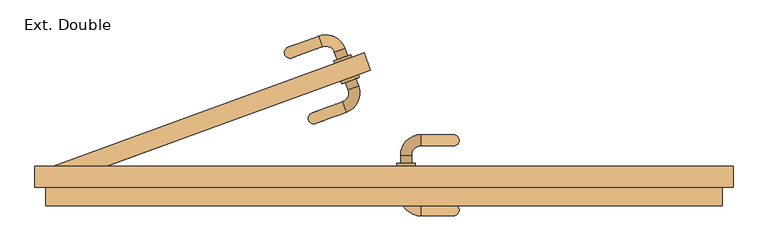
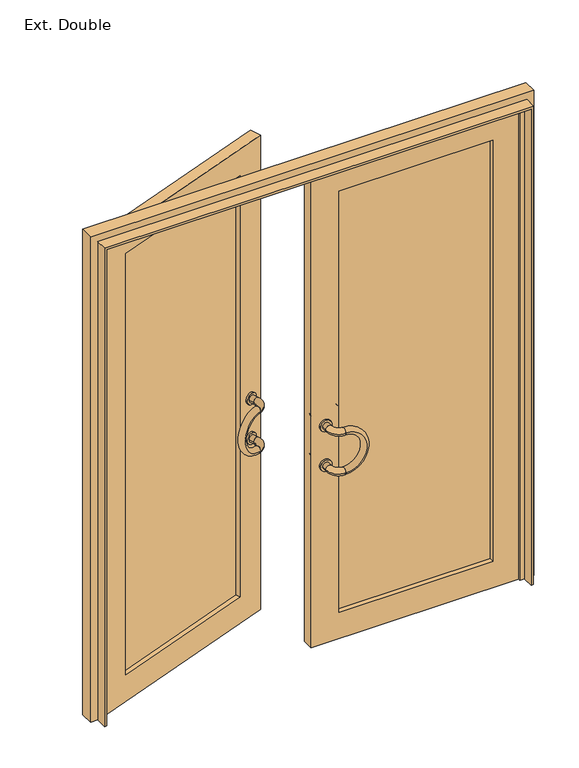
"""IFC4 building model written with IfcOpenShell, lengths in millimetres: door geometry, Ext. Double : Vitrée - 1.80 m x 2.15 m."""

from ifc_helpers import new_model, si_unit, point, frame, origin, place, context, project, spatial, polyline, circle_curve, ellipse_curve, trimmed, outline, extrude, faceted_brep, source, transform, mapped, element, save
from ifc_brep_helpers import plane_surface, cylinder_surface, revolved_surface, advanced_brep


def ext_double_bc6d21ab(model_context):
    return source(origin(), model_context, "Body", "SolidModel", [
        advanced_brep(
        [(35.0, 188.0, 990.0), (65.0, 188.0, 990.0), (90.0, 243.0, 990.0), (90.0, 213.0, 990.0)],
        [
            (0, 1, circle_curve(frame((50.0, 188.0, 990.0), z_axis=(0.0, -1.0, 0.0), x_axis=(1.0, 0.0, 0.0)), 15.0)),
            (1, 0, circle_curve(frame((50.0, 188.0, 990.0), z_axis=(0.0, -1.0, 0.0), x_axis=(1.0, 0.0, 0.0)), 15.0)),
            (2, 3, circle_curve(frame((90.0, 228.0, 990.0), z_axis=(1.0, 0.0, 0.0), x_axis=(0.0, -1.0, 0.0)), 15.0)),
            (3, 2, circle_curve(frame((90.0, 228.0, 990.0), z_axis=(1.0, 0.0, 0.0), x_axis=(0.0, -1.0, 0.0)), 15.0)),
            (2, 0, circle_curve(frame((90.0, 188.0, 990.0), z_axis=(0.0, 0.0, 1.0), x_axis=(-1.0, 0.0, 0.0)), 55.0)),
            (1, 3, circle_curve(frame((90.0, 188.0, 990.0), z_axis=(0.0, 0.0, -1.0), x_axis=(-1.0, 0.0, 0.0)), 25.0)),
        ],
        [
            plane_surface(frame((90.0, 188.0, 990.0), z_axis=(0.0, -1.0, 0.0), x_axis=(-1.0, 0.0, 0.0))),
            plane_surface(frame((90.0, 188.0, 990.0), z_axis=(1.0, 0.0, 0.0), x_axis=(0.0, 1.0, 0.0))),
            revolved_surface(trimmed(ellipse_curve(frame((50.0, 188.0, 990.0), z_axis=(0.0, 1.0, 0.0), x_axis=(1.0, 0.0, 0.0)), 15.0, 15.0), [point((35.0, 188.0, 990.0))], [point((65.0, 188.0, 990.0))], True, "CARTESIAN"), (90.0, 188.0, 990.0), (0.0, 0.0, 1.0)),
            revolved_surface(trimmed(ellipse_curve(frame((50.0, 188.0, 990.0), z_axis=(0.0, 1.0, 0.0), x_axis=(1.0, 0.0, 0.0)), 15.0, 15.0), [point((65.0, 188.0, 990.0))], [point((35.0, 188.0, 990.0))], True, "CARTESIAN"), (90.0, 188.0, 990.0), (0.0, 0.0, 1.0)),
        ],
        [
            (0, [[1, 2]]),
            (1, [[3, 4]]),
            (2, [[-3, 5, -2, 6]]),
            (3, [[-4, -6, -1, -5]]),
        ],
    ),
        advanced_brep(
        [(35.0, 188.0, 810.0), (65.0, 188.0, 810.0), (90.0, 243.0, 810.0), (90.0, 213.0, 810.0)],
        [
            (0, 1, circle_curve(frame((50.0, 188.0, 810.0), z_axis=(0.0, -1.0, 0.0), x_axis=(1.0, 0.0, 0.0)), 15.0)),
            (1, 0, circle_curve(frame((50.0, 188.0, 810.0), z_axis=(0.0, -1.0, 0.0), x_axis=(1.0, 0.0, 0.0)), 15.0)),
            (2, 3, circle_curve(frame((90.0, 228.0, 810.0), z_axis=(1.0, 0.0, 0.0), x_axis=(0.0, -1.0, 0.0)), 15.0)),
            (3, 2, circle_curve(frame((90.0, 228.0, 810.0), z_axis=(1.0, 0.0, 0.0), x_axis=(0.0, -1.0, 0.0)), 15.0)),
            (2, 0, circle_curve(frame((90.0, 188.0, 810.0), z_axis=(0.0, 0.0, 1.0), x_axis=(-1.0, 0.0, 0.0)), 55.0)),
            (1, 3, circle_curve(frame((90.0, 188.0, 810.0), z_axis=(0.0, 0.0, -1.0), x_axis=(-1.0, 0.0, 0.0)), 25.0)),
        ],
        [
            plane_surface(frame((90.0, 188.0, 990.0), z_axis=(0.0, -1.0, 0.0), x_axis=(-1.0, 0.0, 0.0))),
            plane_surface(frame((90.0, 188.0, 990.0), z_axis=(1.0, 0.0, 0.0), x_axis=(0.0, 1.0, 0.0))),
            revolved_surface(trimmed(ellipse_curve(frame((50.0, 188.0, 810.0), z_axis=(0.0, 1.0, 0.0), x_axis=(1.0, 0.0, 0.0)), 15.0, 15.0), [point((35.0, 188.0, 810.0))], [point((65.0, 188.0, 810.0))], True, "CARTESIAN"), (90.0, 188.0, 990.0), (0.0, 0.0, 1.0)),
            revolved_surface(trimmed(ellipse_curve(frame((50.0, 188.0, 810.0), z_axis=(0.0, 1.0, 0.0), x_axis=(1.0, 0.0, 0.0)), 15.0, 15.0), [point((65.0, 188.0, 810.0))], [point((35.0, 188.0, 810.0))], True, "CARTESIAN"), (90.0, 188.0, 990.0), (0.0, 0.0, 1.0)),
        ],
        [
            (0, [[1, 2]]),
            (1, [[3, 4]]),
            (2, [[-3, 5, -2, 6]]),
            (3, [[-4, -6, -1, -5]]),
        ],
    ),
        advanced_brep(
        [(90.0, 213.0, 990.0), (90.0, 243.0, 990.0), (90.0, 213.0, 810.0), (90.0, 243.0, 810.0)],
        [
            (0, 1, circle_curve(frame((90.0, 228.0, 990.0), z_axis=(-1.0, 0.0, 0.0), x_axis=(0.0, 1.0, 0.0)), 15.0)),
            (1, 0, circle_curve(frame((90.0, 228.0, 990.0), z_axis=(-1.0, 0.0, 0.0), x_axis=(0.0, 1.0, 0.0)), 15.0)),
            (2, 3, circle_curve(frame((90.0, 228.0, 810.0), z_axis=(-1.0, 0.0, 0.0), x_axis=(0.0, 1.0, 0.0)), 15.0)),
            (3, 2, circle_curve(frame((90.0, 228.0, 810.0), z_axis=(-1.0, 0.0, 0.0), x_axis=(0.0, 1.0, 0.0)), 15.0)),
            (2, 0, circle_curve(frame((90.0, 213.0, 900.0), z_axis=(0.0, -1.0, 0.0), x_axis=(0.0, 0.0, 1.0)), 90.0)),
            (1, 3, circle_curve(frame((90.0, 243.0, 900.0), z_axis=(0.0, 1.0, 0.0), x_axis=(0.0, 0.0, 1.0)), 90.0)),
        ],
        [
            plane_surface(frame((90.0, 243.0, 900.0), z_axis=(-1.0, 0.0, 0.0), x_axis=(0.0, 0.0, 1.0))),
            plane_surface(frame((90.0, 243.0, 900.0), z_axis=(-1.0, 0.0, 0.0), x_axis=(0.0, 0.0, -1.0))),
            revolved_surface(trimmed(ellipse_curve(frame((90.0, 228.0, 990.0), z_axis=(1.0, 0.0, 0.0), x_axis=(0.0, 1.0, 0.0)), 15.0, 15.0), [point((90.0, 213.0, 990.0))], [point((90.0, 243.0, 990.0))], True, "CARTESIAN"), (90.0, 243.0, 900.0), (0.0, -1.0, 0.0)),
            revolved_surface(trimmed(ellipse_curve(frame((90.0, 228.0, 990.0), z_axis=(1.0, 0.0, 0.0), x_axis=(0.0, 1.0, 0.0)), 15.0, 15.0), [point((90.0, 243.0, 990.0))], [point((90.0, 213.0, 990.0))], True, "CARTESIAN"), (90.0, 243.0, 900.0), (0.0, -1.0, 0.0)),
        ],
        [
            (0, [[1, 2]]),
            (1, [[3, 4]]),
            (2, [[-3, 5, -2, 6]]),
            (3, [[-4, -6, -1, -5]]),
        ],
    ),
        advanced_brep(
        [(65.0, 78.0, 990.0), (35.0, 78.0, 990.0), (90.0, 53.0, 990.0), (90.0, 23.0, 990.0)],
        [
            (0, 1, circle_curve(frame((50.0, 78.0, 990.0), z_axis=(0.0, 1.0, 0.0), x_axis=(-1.0, 0.0, 0.0)), 15.0)),
            (1, 0, circle_curve(frame((50.0, 78.0, 990.0), z_axis=(0.0, 1.0, 0.0), x_axis=(-1.0, 0.0, 0.0)), 15.0)),
            (2, 3, circle_curve(frame((90.0, 38.0, 990.0), z_axis=(1.0, 0.0, 0.0), x_axis=(0.0, -1.0, 0.0)), 15.0)),
            (3, 2, circle_curve(frame((90.0, 38.0, 990.0), z_axis=(1.0, 0.0, 0.0), x_axis=(0.0, -1.0, 0.0)), 15.0)),
            (2, 0, circle_curve(frame((90.0, 78.0, 990.0), z_axis=(0.0, 0.0, -1.0), x_axis=(-1.0, 0.0, 0.0)), 25.0)),
            (1, 3, circle_curve(frame((90.0, 78.0, 990.0), z_axis=(0.0, 0.0, 1.0), x_axis=(-1.0, 0.0, 0.0)), 55.0)),
        ],
        [
            plane_surface(frame((90.0, 78.0, 990.0), z_axis=(0.0, 1.0, 0.0), x_axis=(-1.0, 0.0, 0.0))),
            plane_surface(frame((90.0, 78.0, 990.0), z_axis=(1.0, 0.0, 0.0), x_axis=(0.0, -1.0, 0.0))),
            revolved_surface(trimmed(ellipse_curve(frame((50.0, 78.0, 990.0), z_axis=(0.0, -1.0, 0.0), x_axis=(-1.0, 0.0, 0.0)), 15.0, 15.0), [point((65.0, 78.0, 990.0))], [point((35.0, 78.0, 990.0))], True, "CARTESIAN"), (90.0, 78.0, 990.0), (0.0, 0.0, -1.0)),
            revolved_surface(trimmed(ellipse_curve(frame((50.0, 78.0, 990.0), z_axis=(0.0, -1.0, 0.0), x_axis=(-1.0, 0.0, 0.0)), 15.0, 15.0), [point((35.0, 78.0, 990.0))], [point((65.0, 78.0, 990.0))], True, "CARTESIAN"), (90.0, 78.0, 990.0), (0.0, 0.0, -1.0)),
        ],
        [
            (0, [[1, 2]]),
            (1, [[3, 4]]),
            (2, [[-3, 5, -2, 6]]),
            (3, [[-4, -6, -1, -5]]),
        ],
    ),
        advanced_brep(
        [(65.0, 78.0, 810.0), (35.0, 78.0, 810.0), (90.0, 53.0, 810.0), (90.0, 23.0, 810.0)],
        [
            (0, 1, circle_curve(frame((50.0, 78.0, 810.0), z_axis=(0.0, 1.0, 0.0), x_axis=(-1.0, 0.0, 0.0)), 15.0)),
            (1, 0, circle_curve(frame((50.0, 78.0, 810.0), z_axis=(0.0, 1.0, 0.0), x_axis=(-1.0, 0.0, 0.0)), 15.0)),
            (2, 3, circle_curve(frame((90.0, 38.0, 810.0), z_axis=(1.0, 0.0, 0.0), x_axis=(0.0, -1.0, 0.0)), 15.0)),
            (3, 2, circle_curve(frame((90.0, 38.0, 810.0), z_axis=(1.0, 0.0, 0.0), x_axis=(0.0, -1.0, 0.0)), 15.0)),
            (2, 0, circle_curve(frame((90.0, 78.0, 810.0), z_axis=(0.0, 0.0, -1.0), x_axis=(-1.0, 0.0, 0.0)), 25.0)),
            (1, 3, circle_curve(frame((90.0, 78.0, 810.0), z_axis=(0.0, 0.0, 1.0), x_axis=(-1.0, 0.0, 0.0)), 55.0)),
        ],
        [
            plane_surface(frame((90.0, 78.0, 990.0), z_axis=(0.0, 1.0, 0.0), x_axis=(-1.0, 0.0, 0.0))),
            plane_surface(frame((90.0, 78.0, 990.0), z_axis=(1.0, 0.0, 0.0), x_axis=(0.0, -1.0, 0.0))),
            revolved_surface(trimmed(ellipse_curve(frame((50.0, 78.0, 810.0), z_axis=(0.0, -1.0, 0.0), x_axis=(-1.0, 0.0, 0.0)), 15.0, 15.0), [point((65.0, 78.0, 810.0))], [point((35.0, 78.0, 810.0))], True, "CARTESIAN"), (90.0, 78.0, 990.0), (0.0, 0.0, -1.0)),
            revolved_surface(trimmed(ellipse_curve(frame((50.0, 78.0, 810.0), z_axis=(0.0, -1.0, 0.0), x_axis=(-1.0, 0.0, 0.0)), 15.0, 15.0), [point((35.0, 78.0, 810.0))], [point((65.0, 78.0, 810.0))], True, "CARTESIAN"), (90.0, 78.0, 990.0), (0.0, 0.0, -1.0)),
        ],
        [
            (0, [[1, 2]]),
            (1, [[3, 4]]),
            (2, [[-3, 5, -2, 6]]),
            (3, [[-4, -6, -1, -5]]),
        ],
    ),
        advanced_brep(
        [(90.0, 23.0, 990.0), (90.0, 53.0, 990.0), (90.0, 23.0, 810.0), (90.0, 53.0, 810.0)],
        [
            (0, 1, circle_curve(frame((90.0, 38.0, 990.0), z_axis=(-1.0, 0.0, 0.0), x_axis=(0.0, 1.0, 0.0)), 15.0)),
            (1, 0, circle_curve(frame((90.0, 38.0, 990.0), z_axis=(-1.0, 0.0, 0.0), x_axis=(0.0, 1.0, 0.0)), 15.0)),
            (2, 3, circle_curve(frame((90.0, 38.0, 810.0), z_axis=(-1.0, 0.0, 0.0), x_axis=(0.0, 1.0, 0.0)), 15.0)),
            (3, 2, circle_curve(frame((90.0, 38.0, 810.0), z_axis=(-1.0, 0.0, 0.0), x_axis=(0.0, 1.0, 0.0)), 15.0)),
            (2, 0, circle_curve(frame((90.0, 23.0, 900.0), z_axis=(0.0, -1.0, 0.0), x_axis=(0.0, 0.0, 1.0)), 90.0)),
            (1, 3, circle_curve(frame((90.0, 53.0, 900.0), z_axis=(0.0, 1.0, 0.0), x_axis=(0.0, 0.0, 1.0)), 90.0)),
        ],
        [
            plane_surface(frame((90.0, 38.0, 900.0), z_axis=(-1.0, 0.0, 0.0), x_axis=(0.0, 0.0, 1.0))),
            plane_surface(frame((90.0, 38.0, 900.0), z_axis=(-1.0, 0.0, 0.0), x_axis=(0.0, 0.0, -1.0))),
            revolved_surface(trimmed(ellipse_curve(frame((90.0, 38.0, 990.0), z_axis=(1.0, 0.0, 0.0), x_axis=(0.0, 1.0, 0.0)), 15.0, 15.0), [point((90.0, 23.0, 990.0))], [point((90.0, 53.0, 990.0))], True, "CARTESIAN"), (90.0, 38.0, 900.0), (0.0, -1.0, 0.0)),
            revolved_surface(trimmed(ellipse_curve(frame((90.0, 38.0, 990.0), z_axis=(1.0, 0.0, 0.0), x_axis=(0.0, 1.0, 0.0)), 15.0, 15.0), [point((90.0, 53.0, 990.0))], [point((90.0, 23.0, 990.0))], True, "CARTESIAN"), (90.0, 38.0, 900.0), (0.0, -1.0, 0.0)),
        ],
        [
            (0, [[1, 2]]),
            (1, [[3, 4]]),
            (2, [[-3, 5, -2, 6]]),
            (3, [[-4, -6, -1, -5]]),
        ],
    ),
        advanced_brep(
        [(25.0, 166.0, 990.0), (75.0, 166.0, 990.0), (65.0, 166.0, 990.0), (35.0, 166.0, 990.0), (25.0, 158.0, 990.0), (75.0, 158.0, 990.0), (35.0, 188.0, 990.0), (65.0, 188.0, 990.0)],
        [
            (0, 1, circle_curve(frame((50.0, 166.0, 990.0), z_axis=(0.0, 1.0, 0.0), x_axis=(1.0, 0.0, 0.0)), 25.0)),
            (1, 0, circle_curve(frame((50.0, 166.0, 990.0), z_axis=(0.0, 1.0, 0.0), x_axis=(1.0, 0.0, 0.0)), 25.0)),
            (2, 3, circle_curve(frame((50.0, 166.0, 990.0), z_axis=(0.0, -1.0, 0.0), x_axis=(1.0, 0.0, 0.0)), 15.0)),
            (3, 2, circle_curve(frame((50.0, 166.0, 990.0), z_axis=(0.0, -1.0, 0.0), x_axis=(1.0, 0.0, 0.0)), 15.0)),
            (4, 5, circle_curve(frame((50.0, 158.0, 990.0), z_axis=(0.0, -1.0, 0.0), x_axis=(1.0, 0.0, 0.0)), 25.0)),
            (5, 4, circle_curve(frame((50.0, 158.0, 990.0), z_axis=(0.0, -1.0, 0.0), x_axis=(1.0, 0.0, 0.0)), 25.0)),
            (1, 5),
            (4, 0),
            (6, 7, circle_curve(frame((50.0, 188.0, 990.0), z_axis=(0.0, 1.0, 0.0), x_axis=(1.0, 0.0, 0.0)), 15.0)),
            (7, 6, circle_curve(frame((50.0, 188.0, 990.0), z_axis=(0.0, 1.0, 0.0), x_axis=(1.0, 0.0, 0.0)), 15.0)),
            (7, 2),
            (3, 6),
        ],
        [
            plane_surface(frame((75.0, 166.0, 990.0), z_axis=(0.0, 1.0, 0.0), x_axis=(0.0, 0.0, 1.0))),
            plane_surface(frame((75.0, 158.0, 990.0), z_axis=(0.0, -1.0, 0.0), x_axis=(0.0, 0.0, -1.0))),
            cylinder_surface(frame((50.0, 158.0, 990.0), z_axis=(0.0, 1.0, 0.0), x_axis=(1.0, 0.0, 0.0)), 25.0),
            plane_surface(frame((65.0, 188.0, 990.0), z_axis=(0.0, 1.0, 0.0), x_axis=(0.0, 0.0, 1.0))),
            cylinder_surface(frame((50.0, 158.0, 990.0), z_axis=(0.0, 1.0, 0.0), x_axis=(1.0, 0.0, 0.0)), 15.0),
        ],
        [
            (0, [[1, 2], [3, 4]]),
            (1, [[5, 6]]),
            (2, [[7, -5, 8, -2]]),
            (2, [[-8, -6, -7, -1]]),
            (3, [[9, 10]]),
            (4, [[11, -4, 12, -10]]),
            (4, [[-12, -3, -11, -9]]),
        ],
    ),
        advanced_brep(
        [(25.0, 166.0, 810.0), (75.0, 166.0, 810.0), (65.0, 166.0, 810.0), (35.0, 166.0, 810.0), (25.0, 158.0, 810.0), (75.0, 158.0, 810.0), (35.0, 188.0, 810.0), (65.0, 188.0, 810.0)],
        [
            (0, 1, circle_curve(frame((50.0, 166.0, 810.0), z_axis=(0.0, 1.0, 0.0), x_axis=(1.0, 0.0, 0.0)), 25.0)),
            (1, 0, circle_curve(frame((50.0, 166.0, 810.0), z_axis=(0.0, 1.0, 0.0), x_axis=(1.0, 0.0, 0.0)), 25.0)),
            (2, 3, circle_curve(frame((50.0, 166.0, 810.0), z_axis=(0.0, -1.0, 0.0), x_axis=(1.0, 0.0, 0.0)), 15.0)),
            (3, 2, circle_curve(frame((50.0, 166.0, 810.0), z_axis=(0.0, -1.0, 0.0), x_axis=(1.0, 0.0, 0.0)), 15.0)),
            (4, 5, circle_curve(frame((50.0, 158.0, 810.0), z_axis=(0.0, -1.0, 0.0), x_axis=(1.0, 0.0, 0.0)), 25.0)),
            (5, 4, circle_curve(frame((50.0, 158.0, 810.0), z_axis=(0.0, -1.0, 0.0), x_axis=(1.0, 0.0, 0.0)), 25.0)),
            (1, 5),
            (4, 0),
            (6, 7, circle_curve(frame((50.0, 188.0, 810.0), z_axis=(0.0, 1.0, 0.0), x_axis=(1.0, 0.0, 0.0)), 15.0)),
            (7, 6, circle_curve(frame((50.0, 188.0, 810.0), z_axis=(0.0, 1.0, 0.0), x_axis=(1.0, 0.0, 0.0)), 15.0)),
            (7, 2),
            (3, 6),
        ],
        [
            plane_surface(frame((75.0, 166.0, 990.0), z_axis=(0.0, 1.0, 0.0), x_axis=(0.0, 0.0, 1.0))),
            plane_surface(frame((75.0, 158.0, 990.0), z_axis=(0.0, -1.0, 0.0), x_axis=(0.0, 0.0, -1.0))),
            cylinder_surface(frame((50.0, 158.0, 810.0), z_axis=(0.0, 1.0, 0.0), x_axis=(1.0, 0.0, 0.0)), 25.0),
            plane_surface(frame((65.0, 188.0, 990.0), z_axis=(0.0, 1.0, 0.0), x_axis=(0.0, 0.0, 1.0))),
            cylinder_surface(frame((50.0, 158.0, 810.0), z_axis=(0.0, 1.0, 0.0), x_axis=(1.0, 0.0, 0.0)), 15.0),
        ],
        [
            (0, [[1, 2], [3, 4]]),
            (1, [[5, 6]]),
            (2, [[7, -5, 8, -2]]),
            (2, [[-8, -6, -7, -1]]),
            (3, [[9, 10]]),
            (4, [[11, -4, 12, -10]]),
            (4, [[-12, -3, -11, -9]]),
        ],
    ),
        advanced_brep(
        [(25.0, 108.0, 810.0), (75.0, 108.0, 810.0), (25.0, 100.0, 810.0), (75.0, 100.0, 810.0), (35.0, 100.0, 810.0), (65.0, 100.0, 810.0), (35.0, 78.0, 810.0), (65.0, 78.0, 810.0)],
        [
            (0, 1, circle_curve(frame((50.0, 108.0, 810.0), z_axis=(0.0, 1.0, 0.0), x_axis=(1.0, 0.0, 0.0)), 25.0)),
            (1, 0, circle_curve(frame((50.0, 108.0, 810.0), z_axis=(0.0, 1.0, 0.0), x_axis=(1.0, 0.0, 0.0)), 25.0)),
            (2, 3, circle_curve(frame((50.0, 100.0, 810.0), z_axis=(0.0, -1.0, 0.0), x_axis=(1.0, 0.0, 0.0)), 25.0)),
            (3, 2, circle_curve(frame((50.0, 100.0, 810.0), z_axis=(0.0, -1.0, 0.0), x_axis=(1.0, 0.0, 0.0)), 25.0)),
            (4, 5, circle_curve(frame((50.0, 100.0, 810.0), z_axis=(0.0, 1.0, 0.0), x_axis=(1.0, 0.0, 0.0)), 15.0)),
            (5, 4, circle_curve(frame((50.0, 100.0, 810.0), z_axis=(0.0, 1.0, 0.0), x_axis=(1.0, 0.0, 0.0)), 15.0)),
            (1, 3),
            (2, 0),
            (6, 7, circle_curve(frame((50.0, 78.0, 810.0), z_axis=(0.0, -1.0, 0.0), x_axis=(1.0, 0.0, 0.0)), 15.0)),
            (7, 6, circle_curve(frame((50.0, 78.0, 810.0), z_axis=(0.0, -1.0, 0.0), x_axis=(1.0, 0.0, 0.0)), 15.0)),
            (6, 4),
            (5, 7),
        ],
        [
            plane_surface(frame((75.0, 108.0, 990.0), z_axis=(0.0, 1.0, 0.0), x_axis=(0.0, 0.0, 1.0))),
            plane_surface(frame((75.0, 100.0, 990.0), z_axis=(0.0, -1.0, 0.0), x_axis=(0.0, 0.0, -1.0))),
            cylinder_surface(frame((50.0, 108.0, 810.0), z_axis=(0.0, 1.0, 0.0), x_axis=(1.0, 0.0, 0.0)), 25.0),
            plane_surface(frame((65.0, 78.0, 990.0), z_axis=(0.0, -1.0, 0.0), x_axis=(0.0, 0.0, -1.0))),
            cylinder_surface(frame((50.0, 108.0, 810.0), z_axis=(0.0, 1.0, 0.0), x_axis=(1.0, 0.0, 0.0)), 15.0),
        ],
        [
            (0, [[1, 2]]),
            (1, [[3, 4], [5, 6]]),
            (2, [[7, -3, 8, -2]]),
            (2, [[-8, -4, -7, -1]]),
            (3, [[9, 10]]),
            (4, [[11, -6, 12, -9]]),
            (4, [[-12, -5, -11, -10]]),
        ],
    ),
        advanced_brep(
        [(25.0, 108.0, 990.0), (75.0, 108.0, 990.0), (25.0, 100.0, 990.0), (75.0, 100.0, 990.0), (35.0, 100.0, 990.0), (65.0, 100.0, 990.0), (35.0, 78.0, 990.0), (65.0, 78.0, 990.0)],
        [
            (0, 1, circle_curve(frame((50.0, 108.0, 990.0), z_axis=(0.0, 1.0, 0.0), x_axis=(1.0, 0.0, 0.0)), 25.0)),
            (1, 0, circle_curve(frame((50.0, 108.0, 990.0), z_axis=(0.0, 1.0, 0.0), x_axis=(1.0, 0.0, 0.0)), 25.0)),
            (2, 3, circle_curve(frame((50.0, 100.0, 990.0), z_axis=(0.0, -1.0, 0.0), x_axis=(1.0, 0.0, 0.0)), 25.0)),
            (3, 2, circle_curve(frame((50.0, 100.0, 990.0), z_axis=(0.0, -1.0, 0.0), x_axis=(1.0, 0.0, 0.0)), 25.0)),
            (4, 5, circle_curve(frame((50.0, 100.0, 990.0), z_axis=(0.0, 1.0, 0.0), x_axis=(1.0, 0.0, 0.0)), 15.0)),
            (5, 4, circle_curve(frame((50.0, 100.0, 990.0), z_axis=(0.0, 1.0, 0.0), x_axis=(1.0, 0.0, 0.0)), 15.0)),
            (1, 3),
            (2, 0),
            (6, 7, circle_curve(frame((50.0, 78.0, 990.0), z_axis=(0.0, -1.0, 0.0), x_axis=(1.0, 0.0, 0.0)), 15.0)),
            (7, 6, circle_curve(frame((50.0, 78.0, 990.0), z_axis=(0.0, -1.0, 0.0), x_axis=(1.0, 0.0, 0.0)), 15.0)),
            (6, 4),
            (5, 7),
        ],
        [
            plane_surface(frame((75.0, 108.0, 990.0), z_axis=(0.0, 1.0, 0.0), x_axis=(0.0, 0.0, 1.0))),
            plane_surface(frame((75.0, 100.0, 990.0), z_axis=(0.0, -1.0, 0.0), x_axis=(0.0, 0.0, -1.0))),
            cylinder_surface(frame((50.0, 100.0, 990.0), z_axis=(0.0, 1.0, 0.0), x_axis=(1.0, 0.0, 0.0)), 25.0),
            plane_surface(frame((65.0, 78.0, 990.0), z_axis=(0.0, -1.0, 0.0), x_axis=(0.0, 0.0, -1.0))),
            cylinder_surface(frame((50.0, 78.0, 990.0), z_axis=(0.0, 1.0, 0.0), x_axis=(1.0, 0.0, 0.0)), 15.0),
        ],
        [
            (0, [[1, 2]]),
            (1, [[3, 4], [5, 6]]),
            (2, [[7, -3, 8, -2]]),
            (2, [[-8, -4, -7, -1]]),
            (3, [[9, 10]]),
            (4, [[11, -6, 12, -9]]),
            (4, [[-12, -5, -11, -10]]),
        ],
    ),
        extrude(outline(polyline([(110.0, 128.0), (110.0, 138.0), (770.0, 138.0), (770.0, 128.0), (110.0, 128.0)])), frame((0.0, 0.0, 120.0), z_axis=(0.0, 0.0, 1.0), x_axis=(1.0, 0.0, 0.0)), (0.0, 0.0, 1.0), 1910.0),
        extrude(outline(polyline([(2150.0, -10.0), (0.0, -10.0), (0.0, 890.0), (2150.0, 890.0), (2150.0, -10.0)]), holes=[polyline([(2030.0, 770.0), (120.0, 770.0), (120.0, 110.0), (2030.0, 110.0), (2030.0, 770.0)])]), frame((0.0, 108.0, 0.0), z_axis=(0.0, 1.0, 0.0), x_axis=(0.0, 0.0, 1.0)), (0.0, 0.0, 1.0), 50.0),
        advanced_brep(
        [(-116.8234135, 478.6180012, 990.0), (-145.0141922, 468.3573969, 990.0), (-187.3176156, 511.4899874, 990.0), (-177.0570113, 483.2992088, 990.0)],
        [
            (0, 1, circle_curve(frame((-130.9188028, 473.487699, 990.0), z_axis=(0.34202014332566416, -0.9396926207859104, 0.0), x_axis=(-0.9396926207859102, -0.3420201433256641, 0.0)), 15.0)),
            (1, 0, circle_curve(frame((-130.9188028, 473.487699, 990.0), z_axis=(0.34202014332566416, -0.9396926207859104, 0.0), x_axis=(-0.9396926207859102, -0.3420201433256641, 0.0)), 15.0)),
            (2, 3, circle_curve(frame((-182.1873134, 497.3945981, 990.0), z_axis=(-0.9396926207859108, -0.3420201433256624, 0.0), x_axis=(0.34202014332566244, -0.939692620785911, 0.0)), 15.0)),
            (3, 2, circle_curve(frame((-182.1873134, 497.3945981, 990.0), z_axis=(-0.9396926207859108, -0.3420201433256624, 0.0), x_axis=(0.34202014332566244, -0.939692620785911, 0.0)), 15.0)),
            (3, 1, circle_curve(frame((-168.5065077, 459.8068933, 990.0), z_axis=(0.0, 0.0, -1.0), x_axis=(0.939692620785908, 0.34202014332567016, 0.0)), 25.0)),
            (0, 2, circle_curve(frame((-168.5065077, 459.8068933, 990.0), z_axis=(0.0, 0.0, 1.0), x_axis=(0.939692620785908, 0.34202014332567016, 0.0)), 55.0)),
        ],
        [
            plane_surface(frame((-168.5065077, 459.8068933, 990.0), z_axis=(0.34202014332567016, -0.939692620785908, 0.0), x_axis=(0.939692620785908, 0.34202014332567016, 0.0))),
            plane_surface(frame((-168.5065077, 459.8068933, 990.0), z_axis=(-0.9396926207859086, -0.3420201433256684, 0.0), x_axis=(-0.3420201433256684, 0.9396926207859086, 0.0))),
            revolved_surface(trimmed(ellipse_curve(frame((-130.9188028, 473.487699, 990.0), z_axis=(0.34202014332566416, -0.9396926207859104, 0.0), x_axis=(-0.9396926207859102, -0.3420201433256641, 0.0)), 15.0, 15.0), [point((-116.8234135, 478.6180012, 990.0))], [point((-145.0141922, 468.3573969, 990.0))], True, "CARTESIAN"), (-168.5065077, 459.8068933, 990.0), (0.0, 0.0, 1.0000000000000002)),
            revolved_surface(trimmed(ellipse_curve(frame((-130.9188028, 473.487699, 990.0), z_axis=(0.34202014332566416, -0.9396926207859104, 0.0), x_axis=(-0.9396926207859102, -0.3420201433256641, 0.0)), 15.0, 15.0), [point((-145.0141922, 468.3573969, 990.0))], [point((-116.8234135, 478.6180012, 990.0))], True, "CARTESIAN"), (-168.5065077, 459.8068933, 990.0), (0.0, 0.0, 1.0000000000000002)),
        ],
        [
            (0, [[1, 2]]),
            (1, [[3, 4]]),
            (2, [[5, -1, 6, -4]]),
            (3, [[-6, -2, -5, -3]]),
        ],
    ),
        advanced_brep(
        [(-116.8234135, 478.6180012, 810.0), (-145.0141922, 468.3573969, 810.0), (-187.3176156, 511.4899874, 810.0), (-177.0570113, 483.2992088, 810.0)],
        [
            (0, 1, circle_curve(frame((-130.9188028, 473.487699, 810.0), z_axis=(0.34202014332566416, -0.9396926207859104, 0.0), x_axis=(-0.9396926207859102, -0.3420201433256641, 0.0)), 15.0)),
            (1, 0, circle_curve(frame((-130.9188028, 473.487699, 810.0), z_axis=(0.34202014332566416, -0.9396926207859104, 0.0), x_axis=(-0.9396926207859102, -0.3420201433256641, 0.0)), 15.0)),
            (2, 3, circle_curve(frame((-182.1873134, 497.3945981, 810.0), z_axis=(-0.9396926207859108, -0.3420201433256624, 0.0), x_axis=(0.34202014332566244, -0.939692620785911, 0.0)), 15.0)),
            (3, 2, circle_curve(frame((-182.1873134, 497.3945981, 810.0), z_axis=(-0.9396926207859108, -0.3420201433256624, 0.0), x_axis=(0.34202014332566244, -0.939692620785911, 0.0)), 15.0)),
            (3, 1, circle_curve(frame((-168.5065077, 459.8068933, 810.0), z_axis=(0.0, 0.0, -1.0), x_axis=(0.939692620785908, 0.34202014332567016, 0.0)), 25.0)),
            (0, 2, circle_curve(frame((-168.5065077, 459.8068933, 810.0), z_axis=(0.0, 0.0, 1.0), x_axis=(0.939692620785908, 0.34202014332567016, 0.0)), 55.0)),
        ],
        [
            plane_surface(frame((-168.5065077, 459.8068933, 990.0), z_axis=(0.34202014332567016, -0.939692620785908, 0.0), x_axis=(0.939692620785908, 0.34202014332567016, 0.0))),
            plane_surface(frame((-168.5065077, 459.8068933, 990.0), z_axis=(-0.9396926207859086, -0.3420201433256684, 0.0), x_axis=(-0.3420201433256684, 0.9396926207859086, 0.0))),
            revolved_surface(trimmed(ellipse_curve(frame((-130.9188028, 473.487699, 810.0), z_axis=(0.34202014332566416, -0.9396926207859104, 0.0), x_axis=(-0.9396926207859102, -0.3420201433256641, 0.0)), 15.0, 15.0), [point((-116.8234135, 478.6180012, 810.0))], [point((-145.0141922, 468.3573969, 810.0))], True, "CARTESIAN"), (-168.5065077, 459.8068933, 990.0), (0.0, 0.0, 1.0000000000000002)),
            revolved_surface(trimmed(ellipse_curve(frame((-130.9188028, 473.487699, 810.0), z_axis=(0.34202014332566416, -0.9396926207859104, 0.0), x_axis=(-0.9396926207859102, -0.3420201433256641, 0.0)), 15.0, 15.0), [point((-145.0141922, 468.3573969, 810.0))], [point((-116.8234135, 478.6180012, 810.0))], True, "CARTESIAN"), (-168.5065077, 459.8068933, 990.0), (0.0, 0.0, 1.0000000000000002)),
        ],
        [
            (0, [[1, 2]]),
            (1, [[3, 4]]),
            (2, [[5, -1, 6, -4]]),
            (3, [[-6, -2, -5, -3]]),
        ],
    ),
        advanced_brep(
        [(-177.0570113, 483.2992088, 990.0), (-187.3176156, 511.4899874, 990.0), (-177.0570113, 483.2992088, 810.0), (-187.3176156, 511.4899874, 810.0)],
        [
            (0, 1, circle_curve(frame((-182.1873134, 497.3945981, 990.0), z_axis=(0.9396926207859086, 0.34202014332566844, 0.0), x_axis=(-0.3420201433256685, 0.9396926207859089, 0.0)), 15.0)),
            (1, 0, circle_curve(frame((-182.1873134, 497.3945981, 990.0), z_axis=(0.9396926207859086, 0.34202014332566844, 0.0), x_axis=(-0.3420201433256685, 0.9396926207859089, 0.0)), 15.0)),
            (2, 3, circle_curve(frame((-182.1873134, 497.3945981, 810.0), z_axis=(0.9396926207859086, 0.34202014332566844, 0.0), x_axis=(-0.3420201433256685, 0.9396926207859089, 0.0)), 15.0)),
            (3, 2, circle_curve(frame((-182.1873134, 497.3945981, 810.0), z_axis=(0.9396926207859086, 0.34202014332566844, 0.0), x_axis=(-0.3420201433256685, 0.9396926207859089, 0.0)), 15.0)),
            (3, 1, circle_curve(frame((-187.3176156, 511.4899874, 900.0), z_axis=(-0.34202014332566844, 0.9396926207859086, 0.0), x_axis=(0.0, 0.0, 1.0000000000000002)), 90.0)),
            (0, 2, circle_curve(frame((-177.0570113, 483.2992088, 900.0), z_axis=(0.34202014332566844, -0.9396926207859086, 0.0), x_axis=(0.0, 0.0, 1.0000000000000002)), 90.0)),
        ],
        [
            plane_surface(frame((-187.3176156, 511.4899874, 900.0), z_axis=(0.9396926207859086, 0.34202014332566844, 0.0), x_axis=(0.0, 0.0, 1.0))),
            plane_surface(frame((-187.3176156, 511.4899874, 900.0), z_axis=(0.9396926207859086, 0.34202014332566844, 0.0), x_axis=(0.0, 0.0, -1.0))),
            revolved_surface(trimmed(ellipse_curve(frame((-182.1873134, 497.3945981, 990.0), z_axis=(0.9396926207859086, 0.34202014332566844, 0.0), x_axis=(-0.3420201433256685, 0.9396926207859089, 0.0)), 15.0, 15.0), [point((-177.0570113, 483.2992088, 990.0))], [point((-187.3176156, 511.4899874, 990.0))], True, "CARTESIAN"), (-187.3176156, 511.4899874, 900.0), (0.3420201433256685, -0.9396926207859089, 0.0)),
            revolved_surface(trimmed(ellipse_curve(frame((-182.1873134, 497.3945981, 990.0), z_axis=(0.9396926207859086, 0.34202014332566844, 0.0), x_axis=(-0.3420201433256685, 0.9396926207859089, 0.0)), 15.0, 15.0), [point((-187.3176156, 511.4899874, 990.0))], [point((-177.0570113, 483.2992088, 990.0))], True, "CARTESIAN"), (-187.3176156, 511.4899874, 900.0), (0.3420201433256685, -0.9396926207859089, 0.0)),
        ],
        [
            (0, [[1, 2]]),
            (1, [[3, 4]]),
            (2, [[5, -1, 6, -4]]),
            (3, [[-6, -2, -5, -3]]),
        ],
    ),
        advanced_brep(
        [(-107.3919764, 364.9912086, 990.0), (-79.2011978, 375.2518129, 990.0), (-122.3337883, 332.9483895, 990.0), (-112.073184, 304.7576109, 990.0)],
        [
            (0, 1, circle_curve(frame((-93.2965871, 370.1215107, 990.0), z_axis=(-0.34202014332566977, 0.9396926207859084, 0.0), x_axis=(0.9396926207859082, 0.3420201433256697, 0.0)), 15.0)),
            (1, 0, circle_curve(frame((-93.2965871, 370.1215107, 990.0), z_axis=(-0.34202014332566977, 0.9396926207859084, 0.0), x_axis=(0.9396926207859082, 0.3420201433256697, 0.0)), 15.0)),
            (2, 3, circle_curve(frame((-117.2034862, 318.8530002, 990.0), z_axis=(-0.9396926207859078, -0.34202014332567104, 0.0), x_axis=(0.3420201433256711, -0.939692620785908, 0.0)), 15.0)),
            (3, 2, circle_curve(frame((-117.2034862, 318.8530002, 990.0), z_axis=(-0.9396926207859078, -0.34202014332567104, 0.0), x_axis=(0.3420201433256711, -0.939692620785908, 0.0)), 15.0)),
            (3, 1, circle_curve(frame((-130.8842919, 356.440705, 990.0), z_axis=(0.0, 0.0, 1.0), x_axis=(0.9396926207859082, 0.34202014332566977, 0.0)), 55.0)),
            (0, 2, circle_curve(frame((-130.8842919, 356.440705, 990.0), z_axis=(0.0, 0.0, -1.0), x_axis=(0.9396926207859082, 0.34202014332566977, 0.0)), 25.0)),
        ],
        [
            plane_surface(frame((-130.8842919, 356.440705, 990.0), z_axis=(-0.34202014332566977, 0.9396926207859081, 0.0), x_axis=(0.9396926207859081, 0.34202014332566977, 0.0))),
            plane_surface(frame((-130.8842919, 356.440705, 990.0), z_axis=(-0.9396926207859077, -0.34202014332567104, 0.0), x_axis=(0.34202014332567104, -0.9396926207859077, 0.0))),
            revolved_surface(trimmed(ellipse_curve(frame((-93.2965871, 370.1215107, 990.0), z_axis=(-0.34202014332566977, 0.9396926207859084, 0.0), x_axis=(0.9396926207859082, 0.3420201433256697, 0.0)), 15.0, 15.0), [point((-107.3919764, 364.9912086, 990.0))], [point((-79.2011978, 375.2518129, 990.0))], True, "CARTESIAN"), (-130.8842919, 356.440705, 990.0), (0.0, 0.0, -1.0000000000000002)),
            revolved_surface(trimmed(ellipse_curve(frame((-93.2965871, 370.1215107, 990.0), z_axis=(-0.34202014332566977, 0.9396926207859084, 0.0), x_axis=(0.9396926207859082, 0.3420201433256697, 0.0)), 15.0, 15.0), [point((-79.2011978, 375.2518129, 990.0))], [point((-107.3919764, 364.9912086, 990.0))], True, "CARTESIAN"), (-130.8842919, 356.440705, 990.0), (0.0, 0.0, -1.0000000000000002)),
        ],
        [
            (0, [[1, 2]]),
            (1, [[3, 4]]),
            (2, [[5, -1, 6, -4]]),
            (3, [[-6, -2, -5, -3]]),
        ],
    ),
        advanced_brep(
        [(-107.3919764, 364.9912086, 810.0), (-79.2011978, 375.2518129, 810.0), (-122.3337883, 332.9483895, 810.0), (-112.073184, 304.7576109, 810.0)],
        [
            (0, 1, circle_curve(frame((-93.2965871, 370.1215107, 810.0), z_axis=(-0.34202014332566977, 0.9396926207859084, 0.0), x_axis=(0.9396926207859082, 0.3420201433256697, 0.0)), 15.0)),
            (1, 0, circle_curve(frame((-93.2965871, 370.1215107, 810.0), z_axis=(-0.34202014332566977, 0.9396926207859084, 0.0), x_axis=(0.9396926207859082, 0.3420201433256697, 0.0)), 15.0)),
            (2, 3, circle_curve(frame((-117.2034862, 318.8530002, 810.0), z_axis=(-0.9396926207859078, -0.34202014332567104, 0.0), x_axis=(0.3420201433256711, -0.939692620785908, 0.0)), 15.0)),
            (3, 2, circle_curve(frame((-117.2034862, 318.8530002, 810.0), z_axis=(-0.9396926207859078, -0.34202014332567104, 0.0), x_axis=(0.3420201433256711, -0.939692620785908, 0.0)), 15.0)),
            (3, 1, circle_curve(frame((-130.8842919, 356.440705, 810.0), z_axis=(0.0, 0.0, 1.0), x_axis=(0.9396926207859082, 0.34202014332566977, 0.0)), 55.0)),
            (0, 2, circle_curve(frame((-130.8842919, 356.440705, 810.0), z_axis=(0.0, 0.0, -1.0), x_axis=(0.9396926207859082, 0.34202014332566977, 0.0)), 25.0)),
        ],
        [
            plane_surface(frame((-130.8842919, 356.440705, 990.0), z_axis=(-0.34202014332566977, 0.9396926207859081, 0.0), x_axis=(0.9396926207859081, 0.34202014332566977, 0.0))),
            plane_surface(frame((-130.8842919, 356.440705, 990.0), z_axis=(-0.9396926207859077, -0.34202014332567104, 0.0), x_axis=(0.34202014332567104, -0.9396926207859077, 0.0))),
            revolved_surface(trimmed(ellipse_curve(frame((-93.2965871, 370.1215107, 810.0), z_axis=(-0.34202014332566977, 0.9396926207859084, 0.0), x_axis=(0.9396926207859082, 0.3420201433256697, 0.0)), 15.0, 15.0), [point((-107.3919764, 364.9912086, 810.0))], [point((-79.2011978, 375.2518129, 810.0))], True, "CARTESIAN"), (-130.8842919, 356.440705, 990.0), (0.0, 0.0, -1.0000000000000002)),
            revolved_surface(trimmed(ellipse_curve(frame((-93.2965871, 370.1215107, 810.0), z_axis=(-0.34202014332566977, 0.9396926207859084, 0.0), x_axis=(0.9396926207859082, 0.3420201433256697, 0.0)), 15.0, 15.0), [point((-79.2011978, 375.2518129, 810.0))], [point((-107.3919764, 364.9912086, 810.0))], True, "CARTESIAN"), (-130.8842919, 356.440705, 990.0), (0.0, 0.0, -1.0000000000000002)),
        ],
        [
            (0, [[1, 2]]),
            (1, [[3, 4]]),
            (2, [[5, -1, 6, -4]]),
            (3, [[-6, -2, -5, -3]]),
        ],
    ),
        advanced_brep(
        [(-112.073184, 304.7576109, 990.0), (-122.3337883, 332.9483895, 990.0), (-112.073184, 304.7576109, 810.0), (-122.3337883, 332.9483895, 810.0)],
        [
            (0, 1, circle_curve(frame((-117.2034862, 318.8530002, 990.0), z_axis=(0.9396926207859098, 0.3420201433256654, 0.0), x_axis=(-0.34202014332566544, 0.93969262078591, 0.0)), 15.0)),
            (1, 0, circle_curve(frame((-117.2034862, 318.8530002, 990.0), z_axis=(0.9396926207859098, 0.3420201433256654, 0.0), x_axis=(-0.34202014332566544, 0.93969262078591, 0.0)), 15.0)),
            (2, 3, circle_curve(frame((-117.2034862, 318.8530002, 810.0), z_axis=(0.9396926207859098, 0.3420201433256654, 0.0), x_axis=(-0.34202014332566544, 0.93969262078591, 0.0)), 15.0)),
            (3, 2, circle_curve(frame((-117.2034862, 318.8530002, 810.0), z_axis=(0.9396926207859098, 0.3420201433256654, 0.0), x_axis=(-0.34202014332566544, 0.93969262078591, 0.0)), 15.0)),
            (3, 1, circle_curve(frame((-122.3337883, 332.9483895, 900.0), z_axis=(-0.34202014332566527, 0.9396926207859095, 0.0), x_axis=(0.0, 0.0, 1.0000000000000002)), 90.0)),
            (0, 2, circle_curve(frame((-112.073184, 304.7576109, 900.0), z_axis=(0.34202014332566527, -0.9396926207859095, 0.0), x_axis=(0.0, 0.0, 1.0000000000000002)), 90.0)),
        ],
        [
            plane_surface(frame((-117.2034862, 318.8530002, 900.0), z_axis=(0.9396926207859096, 0.3420201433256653, 0.0), x_axis=(0.0, 0.0, 1.0))),
            plane_surface(frame((-117.2034862, 318.8530002, 900.0), z_axis=(0.9396926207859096, 0.3420201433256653, 0.0), x_axis=(0.0, 0.0, -1.0))),
            revolved_surface(trimmed(ellipse_curve(frame((-117.2034862, 318.8530002, 990.0), z_axis=(0.9396926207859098, 0.3420201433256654, 0.0), x_axis=(-0.34202014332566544, 0.93969262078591, 0.0)), 15.0, 15.0), [point((-112.073184, 304.7576109, 990.0))], [point((-122.3337883, 332.9483895, 990.0))], True, "CARTESIAN"), (-117.2034862, 318.8530002, 900.0), (0.34202014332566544, -0.93969262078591, 0.0)),
            revolved_surface(trimmed(ellipse_curve(frame((-117.2034862, 318.8530002, 990.0), z_axis=(0.9396926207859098, 0.3420201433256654, 0.0), x_axis=(-0.34202014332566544, 0.93969262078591, 0.0)), 15.0, 15.0), [point((-122.3337883, 332.9483895, 990.0))], [point((-112.073184, 304.7576109, 990.0))], True, "CARTESIAN"), (-117.2034862, 318.8530002, 900.0), (0.34202014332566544, -0.93969262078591, 0.0)),
        ],
        [
            (0, [[1, 2]]),
            (1, [[3, 4]]),
            (2, [[5, -1, 6, -4]]),
            (3, [[-6, -2, -5, -3]]),
        ],
    ),
        advanced_brep(
        [(-99.9020442, 461.3649649, 990.0), (-146.8866752, 444.2639578, 990.0), (-137.489749, 447.6841592, 990.0), (-109.2989704, 457.9447635, 990.0), (-97.165883, 453.847424, 990.0), (-144.1505141, 436.7464168, 990.0), (-116.8234135, 478.6180012, 990.0), (-145.0141922, 468.3573969, 990.0)],
        [
            (0, 1, circle_curve(frame((-123.3943597, 452.8144614, 990.0), z_axis=(-0.34202014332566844, 0.9396926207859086, 0.0), x_axis=(-0.9396926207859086, -0.34202014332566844, 0.0)), 25.0)),
            (1, 0, circle_curve(frame((-123.3943597, 452.8144614, 990.0), z_axis=(-0.34202014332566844, 0.9396926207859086, 0.0), x_axis=(-0.9396926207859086, -0.34202014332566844, 0.0)), 25.0)),
            (2, 3, circle_curve(frame((-123.3943597, 452.8144614, 990.0), z_axis=(0.34202014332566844, -0.9396926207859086, 0.0), x_axis=(-0.9396926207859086, -0.34202014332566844, 0.0)), 15.0)),
            (3, 2, circle_curve(frame((-123.3943597, 452.8144614, 990.0), z_axis=(0.34202014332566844, -0.9396926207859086, 0.0), x_axis=(-0.9396926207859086, -0.34202014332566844, 0.0)), 15.0)),
            (4, 5, circle_curve(frame((-120.6581985, 445.2969204, 990.0), z_axis=(0.34202014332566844, -0.9396926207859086, 0.0), x_axis=(-0.9396926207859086, -0.34202014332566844, 0.0)), 25.0)),
            (5, 4, circle_curve(frame((-120.6581985, 445.2969204, 990.0), z_axis=(0.34202014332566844, -0.9396926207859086, 0.0), x_axis=(-0.9396926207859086, -0.34202014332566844, 0.0)), 25.0)),
            (0, 4),
            (5, 1),
            (6, 7, circle_curve(frame((-130.9188028, 473.487699, 990.0), z_axis=(-0.34202014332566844, 0.9396926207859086, 0.0), x_axis=(-0.9396926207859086, -0.34202014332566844, 0.0)), 15.0)),
            (7, 6, circle_curve(frame((-130.9188028, 473.487699, 990.0), z_axis=(-0.34202014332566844, 0.9396926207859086, 0.0), x_axis=(-0.9396926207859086, -0.34202014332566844, 0.0)), 15.0)),
            (6, 3),
            (2, 7),
        ],
        [
            plane_surface(frame((-146.8866752, 444.2639578, 990.0), z_axis=(-0.34202014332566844, 0.9396926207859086, 0.0), x_axis=(0.0, 0.0, 1.0))),
            plane_surface(frame((-144.1505141, 436.7464168, 990.0), z_axis=(0.34202014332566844, -0.9396926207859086, 0.0), x_axis=(0.0, 0.0, -1.0))),
            cylinder_surface(frame((-120.6581985, 445.2969204, 990.0), z_axis=(-0.3420201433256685, 0.9396926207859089, 0.0), x_axis=(-0.9396926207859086, -0.34202014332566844, 0.0)), 25.0),
            plane_surface(frame((-145.0141922, 468.3573969, 990.0), z_axis=(-0.34202014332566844, 0.9396926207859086, 0.0), x_axis=(0.0, 0.0, 1.0))),
            cylinder_surface(frame((-120.6581985, 445.2969204, 990.0), z_axis=(-0.3420201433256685, 0.9396926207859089, 0.0), x_axis=(-0.9396926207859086, -0.34202014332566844, 0.0)), 15.0),
        ],
        [
            (0, [[1, 2], [3, 4]]),
            (1, [[5, 6]]),
            (2, [[-1, 7, -6, 8]]),
            (2, [[-2, -8, -5, -7]]),
            (3, [[9, 10]]),
            (4, [[-9, 11, -3, 12]]),
            (4, [[-10, -12, -4, -11]]),
        ],
    ),
        advanced_brep(
        [(-99.9020442, 461.3649649, 810.0), (-146.8866752, 444.2639578, 810.0), (-137.489749, 447.6841592, 810.0), (-109.2989704, 457.9447635, 810.0), (-97.165883, 453.847424, 810.0), (-144.1505141, 436.7464168, 810.0), (-116.8234135, 478.6180012, 810.0), (-145.0141922, 468.3573969, 810.0)],
        [
            (0, 1, circle_curve(frame((-123.3943597, 452.8144614, 810.0), z_axis=(-0.34202014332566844, 0.9396926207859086, 0.0), x_axis=(-0.9396926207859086, -0.34202014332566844, 0.0)), 25.0)),
            (1, 0, circle_curve(frame((-123.3943597, 452.8144614, 810.0), z_axis=(-0.34202014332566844, 0.9396926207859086, 0.0), x_axis=(-0.9396926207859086, -0.34202014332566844, 0.0)), 25.0)),
            (2, 3, circle_curve(frame((-123.3943597, 452.8144614, 810.0), z_axis=(0.34202014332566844, -0.9396926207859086, 0.0), x_axis=(-0.9396926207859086, -0.34202014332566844, 0.0)), 15.0)),
            (3, 2, circle_curve(frame((-123.3943597, 452.8144614, 810.0), z_axis=(0.34202014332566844, -0.9396926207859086, 0.0), x_axis=(-0.9396926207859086, -0.34202014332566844, 0.0)), 15.0)),
            (4, 5, circle_curve(frame((-120.6581985, 445.2969204, 810.0), z_axis=(0.34202014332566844, -0.9396926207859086, 0.0), x_axis=(-0.9396926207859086, -0.34202014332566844, 0.0)), 25.0)),
            (5, 4, circle_curve(frame((-120.6581985, 445.2969204, 810.0), z_axis=(0.34202014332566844, -0.9396926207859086, 0.0), x_axis=(-0.9396926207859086, -0.34202014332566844, 0.0)), 25.0)),
            (0, 4),
            (5, 1),
            (6, 7, circle_curve(frame((-130.9188028, 473.487699, 810.0), z_axis=(-0.34202014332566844, 0.9396926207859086, 0.0), x_axis=(-0.9396926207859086, -0.34202014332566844, 0.0)), 15.0)),
            (7, 6, circle_curve(frame((-130.9188028, 473.487699, 810.0), z_axis=(-0.34202014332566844, 0.9396926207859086, 0.0), x_axis=(-0.9396926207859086, -0.34202014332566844, 0.0)), 15.0)),
            (6, 3),
            (2, 7),
        ],
        [
            plane_surface(frame((-146.8866752, 444.2639578, 990.0), z_axis=(-0.34202014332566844, 0.9396926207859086, 0.0), x_axis=(0.0, 0.0, 1.0))),
            plane_surface(frame((-144.1505141, 436.7464168, 990.0), z_axis=(0.34202014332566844, -0.9396926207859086, 0.0), x_axis=(0.0, 0.0, -1.0))),
            cylinder_surface(frame((-120.6581985, 445.2969204, 810.0), z_axis=(-0.3420201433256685, 0.9396926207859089, 0.0), x_axis=(-0.9396926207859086, -0.34202014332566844, 0.0)), 25.0),
            plane_surface(frame((-145.0141922, 468.3573969, 990.0), z_axis=(-0.34202014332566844, 0.9396926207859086, 0.0), x_axis=(0.0, 0.0, 1.0))),
            cylinder_surface(frame((-120.6581985, 445.2969204, 810.0), z_axis=(-0.3420201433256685, 0.9396926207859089, 0.0), x_axis=(-0.9396926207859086, -0.34202014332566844, 0.0)), 15.0),
        ],
        [
            (0, [[1, 2], [3, 4]]),
            (1, [[5, 6]]),
            (2, [[-1, 7, -6, 8]]),
            (2, [[-2, -8, -5, -7]]),
            (3, [[9, 10]]),
            (4, [[-9, 11, -3, 12]]),
            (4, [[-10, -12, -4, -11]]),
        ],
    ),
        advanced_brep(
        [(-80.0648759, 406.8627929, 810.0), (-127.0495069, 389.7617858, 810.0), (-77.3287147, 399.345252, 810.0), (-124.3133457, 382.2442448, 810.0), (-86.7256409, 395.9250505, 810.0), (-114.9164195, 385.6644462, 810.0), (-79.2011978, 375.2518129, 810.0), (-107.3919764, 364.9912086, 810.0)],
        [
            (0, 1, circle_curve(frame((-103.5571914, 398.3122894, 810.0), z_axis=(-0.34202014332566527, 0.9396926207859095, 0.0), x_axis=(-0.9396926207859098, -0.3420201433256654, 0.0)), 25.0)),
            (1, 0, circle_curve(frame((-103.5571914, 398.3122894, 810.0), z_axis=(-0.34202014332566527, 0.9396926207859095, 0.0), x_axis=(-0.9396926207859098, -0.3420201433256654, 0.0)), 25.0)),
            (2, 3, circle_curve(frame((-100.8210302, 390.7947484, 810.0), z_axis=(0.34202014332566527, -0.9396926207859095, 0.0), x_axis=(-0.9396926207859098, -0.3420201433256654, 0.0)), 25.0)),
            (3, 2, circle_curve(frame((-100.8210302, 390.7947484, 810.0), z_axis=(0.34202014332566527, -0.9396926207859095, 0.0), x_axis=(-0.9396926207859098, -0.3420201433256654, 0.0)), 25.0)),
            (4, 5, circle_curve(frame((-100.8210302, 390.7947484, 810.0), z_axis=(-0.34202014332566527, 0.9396926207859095, 0.0), x_axis=(-0.9396926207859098, -0.3420201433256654, 0.0)), 15.0)),
            (5, 4, circle_curve(frame((-100.8210302, 390.7947484, 810.0), z_axis=(-0.34202014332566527, 0.9396926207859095, 0.0), x_axis=(-0.9396926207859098, -0.3420201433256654, 0.0)), 15.0)),
            (0, 2),
            (3, 1),
            (6, 7, circle_curve(frame((-93.2965871, 370.1215107, 810.0), z_axis=(0.34202014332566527, -0.9396926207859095, 0.0), x_axis=(-0.9396926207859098, -0.3420201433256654, 0.0)), 15.0)),
            (7, 6, circle_curve(frame((-93.2965871, 370.1215107, 810.0), z_axis=(0.34202014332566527, -0.9396926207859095, 0.0), x_axis=(-0.9396926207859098, -0.3420201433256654, 0.0)), 15.0)),
            (7, 5),
            (4, 6),
        ],
        [
            plane_surface(frame((-127.0495069, 389.7617858, 990.0), z_axis=(-0.3420201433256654, 0.9396926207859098, 0.0), x_axis=(0.0, 0.0, 1.0))),
            plane_surface(frame((-124.3133457, 382.2442448, 990.0), z_axis=(0.3420201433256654, -0.9396926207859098, 0.0), x_axis=(0.0, 0.0, -1.0))),
            cylinder_surface(frame((-103.5571914, 398.3122894, 810.0), z_axis=(-0.34202014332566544, 0.93969262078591, 0.0), x_axis=(-0.9396926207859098, -0.3420201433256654, 0.0)), 25.0),
            plane_surface(frame((-107.3919764, 364.9912086, 990.0), z_axis=(0.3420201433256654, -0.9396926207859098, 0.0), x_axis=(0.0, 0.0, -1.0))),
            cylinder_surface(frame((-103.5571914, 398.3122894, 810.0), z_axis=(-0.34202014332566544, 0.93969262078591, 0.0), x_axis=(-0.9396926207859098, -0.3420201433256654, 0.0)), 15.0),
        ],
        [
            (0, [[1, 2]]),
            (1, [[3, 4], [5, 6]]),
            (2, [[-1, 7, -4, 8]]),
            (2, [[-2, -8, -3, -7]]),
            (3, [[9, 10]]),
            (4, [[-10, 11, -5, 12]]),
            (4, [[-9, -12, -6, -11]]),
        ],
    ),
        advanced_brep(
        [(-80.0648759, 406.8627929, 990.0), (-127.0495069, 389.7617858, 990.0), (-77.3287147, 399.345252, 990.0), (-124.3133457, 382.2442448, 990.0), (-86.7256409, 395.9250505, 990.0), (-114.9164195, 385.6644462, 990.0), (-79.2011978, 375.2518129, 990.0), (-107.3919764, 364.9912086, 990.0)],
        [
            (0, 1, circle_curve(frame((-103.5571914, 398.3122894, 990.0), z_axis=(-0.34202014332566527, 0.9396926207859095, 0.0), x_axis=(-0.9396926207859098, -0.3420201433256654, 0.0)), 25.0)),
            (1, 0, circle_curve(frame((-103.5571914, 398.3122894, 990.0), z_axis=(-0.34202014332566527, 0.9396926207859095, 0.0), x_axis=(-0.9396926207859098, -0.3420201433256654, 0.0)), 25.0)),
            (2, 3, circle_curve(frame((-100.8210302, 390.7947484, 990.0), z_axis=(0.34202014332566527, -0.9396926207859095, 0.0), x_axis=(-0.9396926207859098, -0.3420201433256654, 0.0)), 25.0)),
            (3, 2, circle_curve(frame((-100.8210302, 390.7947484, 990.0), z_axis=(0.34202014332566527, -0.9396926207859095, 0.0), x_axis=(-0.9396926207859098, -0.3420201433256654, 0.0)), 25.0)),
            (4, 5, circle_curve(frame((-100.8210302, 390.7947484, 990.0), z_axis=(-0.34202014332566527, 0.9396926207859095, 0.0), x_axis=(-0.9396926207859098, -0.3420201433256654, 0.0)), 15.0)),
            (5, 4, circle_curve(frame((-100.8210302, 390.7947484, 990.0), z_axis=(-0.34202014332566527, 0.9396926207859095, 0.0), x_axis=(-0.9396926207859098, -0.3420201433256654, 0.0)), 15.0)),
            (0, 2),
            (3, 1),
            (6, 7, circle_curve(frame((-93.2965871, 370.1215107, 990.0), z_axis=(0.34202014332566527, -0.9396926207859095, 0.0), x_axis=(-0.9396926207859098, -0.3420201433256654, 0.0)), 15.0)),
            (7, 6, circle_curve(frame((-93.2965871, 370.1215107, 990.0), z_axis=(0.34202014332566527, -0.9396926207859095, 0.0), x_axis=(-0.9396926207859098, -0.3420201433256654, 0.0)), 15.0)),
            (7, 5),
            (4, 6),
        ],
        [
            plane_surface(frame((-127.0495069, 389.7617858, 990.0), z_axis=(-0.3420201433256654, 0.9396926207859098, 0.0), x_axis=(0.0, 0.0, 1.0))),
            plane_surface(frame((-124.3133457, 382.2442448, 990.0), z_axis=(0.3420201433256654, -0.9396926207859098, 0.0), x_axis=(0.0, 0.0, -1.0))),
            cylinder_surface(frame((-100.8210302, 390.7947484, 990.0), z_axis=(-0.34202014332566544, 0.93969262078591, 0.0), x_axis=(-0.9396926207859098, -0.3420201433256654, 0.0)), 25.0),
            plane_surface(frame((-107.3919764, 364.9912086, 990.0), z_axis=(0.3420201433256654, -0.9396926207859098, 0.0), x_axis=(0.0, 0.0, -1.0))),
            cylinder_surface(frame((-93.2965871, 370.1215107, 990.0), z_axis=(-0.34202014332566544, 0.93969262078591, 0.0), x_axis=(-0.9396926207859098, -0.3420201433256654, 0.0)), 15.0),
        ],
        [
            (0, [[1, 2]]),
            (1, [[3, 4], [5, 6]]),
            (2, [[-1, 7, -4, 8]]),
            (2, [[-2, -8, -3, -7]]),
            (3, [[9, 10]]),
            (4, [[-10, 11, -5, 12]]),
            (4, [[-9, -12, -6, -11]]),
        ],
    ),
        extrude(outline(polyline([(-166.7791515, 396.5849332), (-786.9762812, 170.8516386), (-790.3964826, 180.2485648), (-170.1993529, 405.9818594), (-166.7791515, 396.5849332)])), frame((0.0, 0.0, 120.0), z_axis=(0.0, 0.0, 1.0), x_axis=(1.0, 0.0, 0.0)), (0.0, 0.0, 1.0), 1910.0),
        extrude(outline(polyline([(-900.0, 0.0), (0.0, 0.0), (0.0, -2150.0), (-900.0, -2150.0), (-900.0, 0.0)]), holes=[polyline([(-120.0, -120.0), (-780.0, -120.0), (-780.0, -2030.0), (-120.0, -2030.0), (-120.0, -120.0)])]), frame((-892.8989928, 111.015369, 2150.0), z_axis=(-0.3420201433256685, 0.9396926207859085, 0.0), x_axis=(-0.9396926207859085, -0.3420201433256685, 0.0)), (0.0, 0.0, 1.0), 50.0),
        faceted_brep([(-960.0, 100.0, 0.0), (-960.0, 158.0, 0.0), (-910.0, 158.0, 0.0), (-910.0, 110.0, 0.0), (-900.0, 110.0, 0.0), (-900.0, 100.0, 0.0), (-920.0, 100.0, 0.0), (-920.0, 50.0, 0.0), (-930.0, 50.0, 0.0), (-930.0, 100.0, 0.0), (-930.0, 100.0, 2170.0), (910.0, 100.0, 2170.0), (910.0, 100.0, 0.0), (940.0, 100.0, 0.0), (940.0, 100.0, 2200.0), (-960.0, 100.0, 2200.0), (-930.0, 50.0, 2170.0), (-920.0, 50.0, 2160.0), (900.0, 50.0, 2160.0), (900.0, 50.0, 0.0), (910.0, 50.0, 0.0), (910.0, 50.0, 2170.0), (-920.0, 100.0, 2160.0), (-900.0, 100.0, 2140.0), (880.0, 100.0, 2140.0), (880.0, 100.0, 0.0), (900.0, 100.0, 0.0), (900.0, 100.0, 2160.0), (-900.0, 110.0, 2140.0), (-910.0, 110.0, 2150.0), (890.0, 110.0, 2150.0), (890.0, 110.0, 0.0), (880.0, 110.0, 0.0), (880.0, 110.0, 2140.0), (-910.0, 158.0, 2150.0), (-960.0, 158.0, 2200.0), (940.0, 158.0, 2200.0), (940.0, 158.0, 0.0), (890.0, 158.0, 0.0), (890.0, 158.0, 2150.0)], [[[0, 1, 2, 3, 4, 5, 6, 7, 8, 9]], [[9, 10, 11, 12, 13, 14, 15, 0]], [[8, 16, 10, 9]], [[7, 17, 18, 19, 20, 21, 16, 8]], [[6, 22, 17, 7]], [[5, 23, 24, 25, 26, 27, 22, 6]], [[4, 28, 23, 5]], [[3, 29, 30, 31, 32, 33, 28, 4]], [[2, 34, 29, 3]], [[1, 35, 36, 37, 38, 39, 34, 2]], [[0, 15, 35, 1]], [[14, 13, 37, 36]], [[13, 12, 20, 19, 26, 25, 32, 31, 38, 37]], [[21, 20, 12, 11]], [[27, 26, 19, 18]], [[33, 32, 25, 24]], [[39, 38, 31, 30]], [[16, 21, 11, 10]], [[22, 27, 18, 17]], [[28, 33, 24, 23]], [[34, 39, 30, 29]], [[15, 14, 36, 35]]]),
    ])


if __name__ == "__main__":
    model = new_model("IFC4")
    model_context = context("Model", 3, world=origin())
    ifc_project = project(units=[si_unit("LENGTHUNIT", "METRE", prefix="MILLI")], contexts=[model_context])
    site = spatial("IfcSite", under=ifc_project)
    building = spatial("IfcBuilding", under=site)
    placement = place(None, origin())
    ext_double_shape = ext_double_bc6d21ab(model_context)
    element("IfcDoor", 1, ObjectType="Ext. Double : Vitrée - 1.80 m x 2.15 m", at=placement, inside=building, context=model_context, shape_type="MappedRepresentation", body=[
        mapped(ext_double_shape, transform((0.0, 0.0, 0.0), x_axis=(1.0, 0.0, 0.0), y_axis=(0.0, 1.0, 0.0), z_axis=(0.0, 0.0, 1.0))),
    ])
    save(model, "model.ifc")
